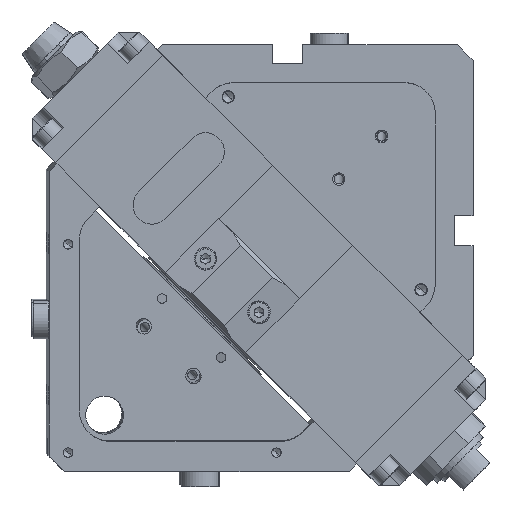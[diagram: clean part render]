
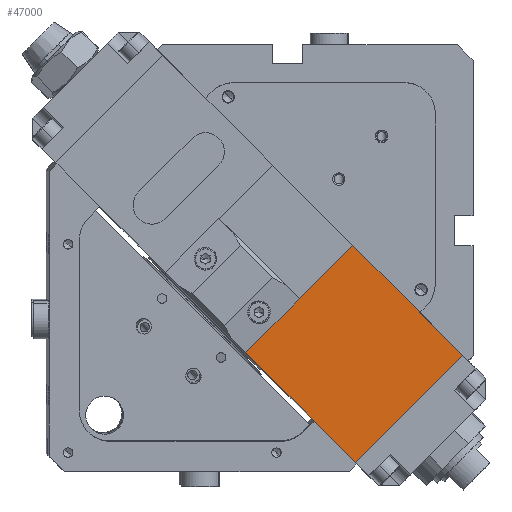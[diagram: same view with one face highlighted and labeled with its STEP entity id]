
A CAD part, top view. The second image highlights one B-rep face of the part: STEP entity #47000.
In plain terms, the highlighted planar face has unit normal (0, 0, 1).
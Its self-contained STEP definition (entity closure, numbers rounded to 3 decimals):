
#32 = CARTESIAN_POINT ( 'NONE',  ( -26.785, -15.427, 37. ) ) ;
#4986 = EDGE_CURVE ( 'NONE', #104425, #19773, #17786, .T. ) ;
#8078 = LINE ( 'NONE', #27765, #97665 ) ;
#9991 = CARTESIAN_POINT ( 'NONE',  ( -26.785, -15.427, 37. ) ) ;
#10840 = DIRECTION ( 'NONE',  ( 0.707, 0.707, 0. ) ) ;
#12465 = ORIENTED_EDGE ( 'NONE', *, *, #102725, .T. ) ;
#15052 = VECTOR ( 'NONE', #10840, 1000. ) ;
#17786 = LINE ( 'NONE', #62783, #15052 ) ;
#19773 = VERTEX_POINT ( 'NONE', #49903 ) ;
#21730 = VERTEX_POINT ( 'NONE', #108227 ) ;
#26773 = EDGE_CURVE ( 'NONE', #104425, #68889, #111269, .T. ) ;
#27765 = CARTESIAN_POINT ( 'NONE',  ( 1.5, 12.857, 37. ) ) ;
#43459 = EDGE_LOOP ( 'NONE', ( #90905, #82689, #71326, #12465 ) ) ;
#43752 = FACE_OUTER_BOUND ( 'NONE', #43459, .T. ) ;
#44856 = VECTOR ( 'NONE', #61894, 1000. ) ;
#46572 = EDGE_CURVE ( 'NONE', #19773, #21730, #8078, .T. ) ;
#47000 = ADVANCED_FACE ( 'NONE', ( #43752 ), #99128, .T. ) ;
#47508 = DIRECTION ( 'NONE',  ( 0., 0., 1. ) ) ;
#47737 = AXIS2_PLACEMENT_3D ( 'NONE', #99486, #47508, #108162 ) ;
#49903 = CARTESIAN_POINT ( 'NONE',  ( 1.5, 12.857, 37. ) ) ;
#56545 = DIRECTION ( 'NONE',  ( 0.707, 0.707, 0. ) ) ;
#61894 = DIRECTION ( 'NONE',  ( 0.707, -0.707, 0. ) ) ;
#62783 = CARTESIAN_POINT ( 'NONE',  ( -26.785, -15.427, 37. ) ) ;
#68889 = VERTEX_POINT ( 'NONE', #112349 ) ;
#71326 = ORIENTED_EDGE ( 'NONE', *, *, #26773, .T. ) ;
#78370 = LINE ( 'NONE', #99840, #98764 ) ;
#82689 = ORIENTED_EDGE ( 'NONE', *, *, #4986, .F. ) ;
#90905 = ORIENTED_EDGE ( 'NONE', *, *, #46572, .F. ) ;
#97665 = VECTOR ( 'NONE', #105847, 1000. ) ;
#98764 = VECTOR ( 'NONE', #56545, 1000. ) ;
#99128 = PLANE ( 'NONE',  #47737 ) ;
#99486 = CARTESIAN_POINT ( 'NONE',  ( -26.785, -15.427, 37. ) ) ;
#99840 = CARTESIAN_POINT ( 'NONE',  ( 2.207, -44.418, 37. ) ) ;
#102725 = EDGE_CURVE ( 'NONE', #68889, #21730, #78370, .T. ) ;
#104425 = VERTEX_POINT ( 'NONE', #32 ) ;
#105847 = DIRECTION ( 'NONE',  ( 0.707, -0.707, 0. ) ) ;
#108162 = DIRECTION ( 'NONE',  ( 0.707, -0.707, 0. ) ) ;
#108227 = CARTESIAN_POINT ( 'NONE',  ( 30.491, -16.134, 37. ) ) ;
#111269 = LINE ( 'NONE', #9991, #44856 ) ;
#112349 = CARTESIAN_POINT ( 'NONE',  ( 2.207, -44.418, 37. ) ) ;
